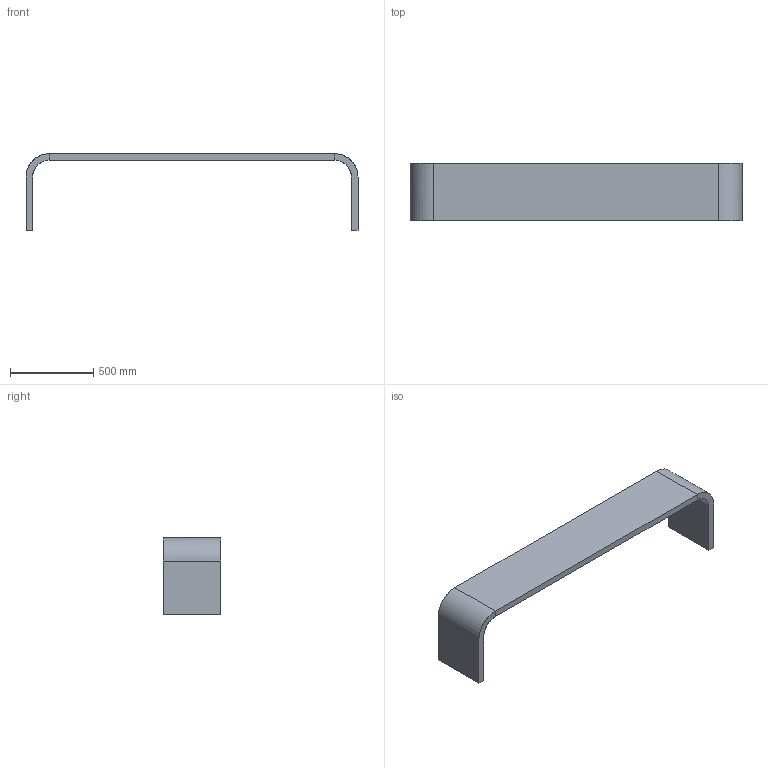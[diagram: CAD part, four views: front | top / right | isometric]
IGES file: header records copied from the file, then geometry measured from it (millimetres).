
Start section: Comment
Global section: file name: M11-20.igs; native system:  By UGS Corp.; preprocessor: XPlus GENERIC/IGES 3.0; author: Author; organization: Title; date: 20200107.144608; units: inch
Bounding box: 1996 x 345 x 460 mm (x, y, z)
Surface area: 2187118.5 mm2 (no closed solid volume)
Topology: 0 solids, 0 shells, 22 faces, 96 edges, 96 vertices
Faces by surface type: bspline 22
